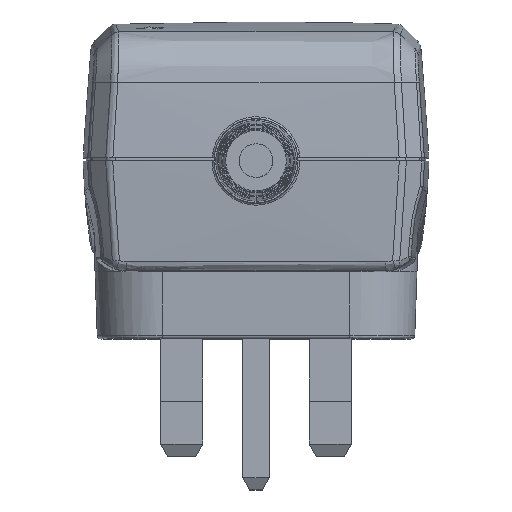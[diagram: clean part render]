
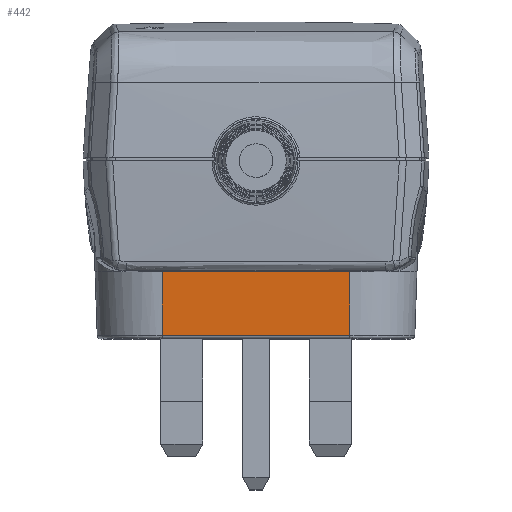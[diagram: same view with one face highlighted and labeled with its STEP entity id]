
A CAD part, top view. The second image highlights one B-rep face of the part: STEP entity #442.
In plain terms, the highlighted free-form (B-spline) face has degree [1, 1] with [2, 2] control points.
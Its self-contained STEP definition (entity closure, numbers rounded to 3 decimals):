
#442=ADVANCED_FACE('',(#898),#15477,.T.);
#898=FACE_OUTER_BOUND('',#1379,.T.);
#1379=EDGE_LOOP('',(#3306,#3307,#3308,#3309));
#3306=ORIENTED_EDGE('',*,*,#10899,.T.);
#3307=ORIENTED_EDGE('',*,*,#10900,.T.);
#3308=ORIENTED_EDGE('',*,*,#10897,.F.);
#3309=ORIENTED_EDGE('',*,*,#10714,.F.);
#5568=PCURVE('',#15422,#7891);
#5910=PCURVE('',#15162,#8233);
#5915=PCURVE('',#15477,#8238);
#5916=PCURVE('',#15477,#8239);
#5917=PCURVE('',#15477,#8240);
#5918=PCURVE('',#15477,#8241);
#5921=PCURVE('',#15163,#8244);
#6059=PCURVE('',#15166,#8382);
#7891=DEFINITIONAL_REPRESENTATION('',(#13172),#92378);
#8233=DEFINITIONAL_REPRESENTATION('',(#13668),#92378);
#8238=DEFINITIONAL_REPRESENTATION('',(#13674),#92378);
#8239=DEFINITIONAL_REPRESENTATION('',(#13676),#92378);
#8240=DEFINITIONAL_REPRESENTATION('',(#13677),#92378);
#8241=DEFINITIONAL_REPRESENTATION('',(#13678),#92378);
#8244=DEFINITIONAL_REPRESENTATION('',(#13682),#92378);
#8382=DEFINITIONAL_REPRESENTATION('',(#13870),#92378);
#9530=SURFACE_CURVE('',#13171,(#5568,#5918),.PCURVE_S1.);
#9713=SURFACE_CURVE('',#13667,(#5910,#5917),.PCURVE_S1.);
#9715=SURFACE_CURVE('',#13673,(#5915,#5921),.PCURVE_S1.);
#9716=SURFACE_CURVE('',#13675,(#5916,#6059),.PCURVE_S1.);
#10714=EDGE_CURVE('',#14865,#14864,#9530,.T.);
#10897=EDGE_CURVE('',#14864,#14981,#9713,.T.);
#10899=EDGE_CURVE('',#14865,#14982,#9715,.T.);
#10900=EDGE_CURVE('',#14982,#14981,#9716,.T.);
#13171=B_SPLINE_CURVE_WITH_KNOTS('',1,(#73730,#73731),.UNSPECIFIED.,.F.,
 .F.,(2,2),(-28.,0.),.UNSPECIFIED.);
#13172=B_SPLINE_CURVE_WITH_KNOTS('',1,(#73732,#73733),.UNSPECIFIED.,.F.,
 .F.,(2,2),(-28.,0.),.UNSPECIFIED.);
#13667=B_SPLINE_CURVE_WITH_KNOTS('',1,(#88741,#88742),.UNSPECIFIED.,.F.,
 .F.,(2,2),(-9.523,0.),.UNSPECIFIED.);
#13668=B_SPLINE_CURVE_WITH_KNOTS('',1,(#88743,#88744),.UNSPECIFIED.,.F.,
 .F.,(2,2),(-9.523,0.),.UNSPECIFIED.);
#13673=B_SPLINE_CURVE_WITH_KNOTS('',1,(#88756,#88757),.UNSPECIFIED.,.F.,
 .F.,(2,2),(-9.523,0.),.UNSPECIFIED.);
#13674=B_SPLINE_CURVE_WITH_KNOTS('',1,(#88758,#88759),.UNSPECIFIED.,.F.,
 .F.,(2,2),(-9.523,0.),.UNSPECIFIED.);
#13675=B_SPLINE_CURVE_WITH_KNOTS('',1,(#88760,#88761),.UNSPECIFIED.,.F.,
 .F.,(2,2),(0.,28.),.UNSPECIFIED.);
#13676=B_SPLINE_CURVE_WITH_KNOTS('',1,(#88762,#88763),.UNSPECIFIED.,.F.,
 .F.,(2,2),(0.,28.),.UNSPECIFIED.);
#13677=B_SPLINE_CURVE_WITH_KNOTS('',1,(#88764,#88765),.UNSPECIFIED.,.F.,
 .F.,(2,2),(-9.523,0.),.UNSPECIFIED.);
#13678=B_SPLINE_CURVE_WITH_KNOTS('',1,(#88766,#88767),.UNSPECIFIED.,.F.,
 .F.,(2,2),(-28.,0.),.UNSPECIFIED.);
#13682=B_SPLINE_CURVE_WITH_KNOTS('',1,(#88777,#88778),.UNSPECIFIED.,.F.,
 .F.,(2,2),(-9.523,0.),.UNSPECIFIED.);
#13870=B_SPLINE_CURVE_WITH_KNOTS('',1,(#89232,#89233),.UNSPECIFIED.,.F.,
 .F.,(2,2),(0.,28.),.UNSPECIFIED.);
#14864=VERTEX_POINT('',#73269);
#14865=VERTEX_POINT('',#73270);
#14981=VERTEX_POINT('',#73386);
#14982=VERTEX_POINT('',#73387);
#15162=(
BOUNDED_SURFACE()
B_SPLINE_SURFACE(2,1,((#72400,#72401),(#72402,#72403),(#72404,#72405),(#72406,
#72407),(#72408,#72409)),.UNSPECIFIED.,.F.,.F.,.F.)
B_SPLINE_SURFACE_WITH_KNOTS((3,2,3),(2,2),(3.063,3.927,
4.791),(-9.999,0.476),.UNSPECIFIED.)
GEOMETRIC_REPRESENTATION_ITEM()
RATIONAL_B_SPLINE_SURFACE(((1.,1.),(0.908,0.908),
(1.,1.),(0.908,0.908),(1.,1.)))
REPRESENTATION_ITEM('')
SURFACE()
);
#15163=(
BOUNDED_SURFACE()
B_SPLINE_SURFACE(2,1,((#72414,#72415),(#72416,#72417),(#72418,#72419),(#72420,
#72421),(#72422,#72423)),.UNSPECIFIED.,.F.,.F.,.F.)
B_SPLINE_SURFACE_WITH_KNOTS((3,2,3),(2,2),(4.634,5.498,
6.362),(-9.999,0.476),.UNSPECIFIED.)
GEOMETRIC_REPRESENTATION_ITEM()
RATIONAL_B_SPLINE_SURFACE(((1.,1.),(0.908,0.908),
(1.,1.),(0.908,0.908),(1.,1.)))
REPRESENTATION_ITEM('')
SURFACE()
);
#15166=(
BOUNDED_SURFACE()
B_SPLINE_SURFACE(2,1,((#72587,#72588),(#72589,#72590),(#72591,#72592),(#72593,
#72594),(#72595,#72596)),.UNSPECIFIED.,.F.,.F.,.F.)
B_SPLINE_SURFACE_WITH_KNOTS((3,2,3),(2,2),(4.636,5.48,
6.325),(-24.4,6.4),.UNSPECIFIED.)
GEOMETRIC_REPRESENTATION_ITEM()
RATIONAL_B_SPLINE_SURFACE(((1.,1.),(0.912,0.912),
(1.,1.),(0.912,0.912),(1.,1.)))
REPRESENTATION_ITEM('')
SURFACE()
);
#15422=B_SPLINE_SURFACE_WITH_KNOTS('',1,1,((#67624,#67625),(#67626,#67627)),
 .UNSPECIFIED.,.F.,.F.,.F.,(2,2),(2,2),(-22.015,22.015),
(-8.162,50.332),.UNSPECIFIED.);
#15477=B_SPLINE_SURFACE_WITH_KNOTS('',1,1,((#72410,#72411),(#72412,#72413)),
 .UNSPECIFIED.,.F.,.F.,.F.,(2,2),(2,2),(-0.476,9.999),
(-29.4,1.4),.UNSPECIFIED.);
#67624=CARTESIAN_POINT('',(-36.007,12.118,-8.162));
#67625=CARTESIAN_POINT('',(-36.007,12.118,50.332));
#67626=CARTESIAN_POINT('',(8.023,12.118,-8.162));
#67627=CARTESIAN_POINT('',(8.023,12.118,50.332));
#72400=CARTESIAN_POINT('',(-0.749,2.125,-3.879));
#72401=CARTESIAN_POINT('',(-0.778,12.594,-3.514));
#72402=CARTESIAN_POINT('',(3.686,2.125,-3.53));
#72403=CARTESIAN_POINT('',(3.825,12.594,-3.152));
#72404=CARTESIAN_POINT('',(6.832,2.125,-6.676));
#72405=CARTESIAN_POINT('',(7.091,12.594,-6.417));
#72406=CARTESIAN_POINT('',(9.978,2.125,-9.822));
#72407=CARTESIAN_POINT('',(10.356,12.594,-9.682));
#72408=CARTESIAN_POINT('',(9.629,2.125,-14.257));
#72409=CARTESIAN_POINT('',(9.994,12.594,-14.286));
#72410=CARTESIAN_POINT('',(-29.392,12.594,-3.483));
#72411=CARTESIAN_POINT('',(1.408,12.594,-3.483));
#72412=CARTESIAN_POINT('',(-29.392,2.125,-3.849));
#72413=CARTESIAN_POINT('',(1.408,2.125,-3.849));
#72414=CARTESIAN_POINT('',(-37.613,2.125,-14.257));
#72415=CARTESIAN_POINT('',(-37.978,12.594,-14.286));
#72416=CARTESIAN_POINT('',(-37.963,2.125,-9.822));
#72417=CARTESIAN_POINT('',(-38.34,12.594,-9.682));
#72418=CARTESIAN_POINT('',(-34.816,2.125,-6.676));
#72419=CARTESIAN_POINT('',(-35.075,12.594,-6.417));
#72420=CARTESIAN_POINT('',(-31.67,2.125,-3.53));
#72421=CARTESIAN_POINT('',(-31.81,12.594,-3.152));
#72422=CARTESIAN_POINT('',(-27.235,2.125,-3.879));
#72423=CARTESIAN_POINT('',(-27.206,12.594,-3.514));
#72587=CARTESIAN_POINT('',(1.408,2.119,-4.37));
#72588=CARTESIAN_POINT('',(-29.392,2.119,-4.37));
#72589=CARTESIAN_POINT('',(1.408,2.102,-4.146));
#72590=CARTESIAN_POINT('',(-29.392,2.102,-4.146));
#72591=CARTESIAN_POINT('',(1.408,2.258,-3.985));
#72592=CARTESIAN_POINT('',(-29.392,2.258,-3.985));
#72593=CARTESIAN_POINT('',(1.408,2.414,-3.823));
#72594=CARTESIAN_POINT('',(-29.392,2.414,-3.823));
#72595=CARTESIAN_POINT('',(1.408,2.639,-3.832));
#72596=CARTESIAN_POINT('',(-29.392,2.639,-3.832));
#73269=CARTESIAN_POINT('',(0.008,12.118,-3.5));
#73270=CARTESIAN_POINT('',(-27.992,12.118,-3.5));
#73386=CARTESIAN_POINT('',(0.008,2.6,-3.832));
#73387=CARTESIAN_POINT('',(-27.992,2.6,-3.832));
#73730=CARTESIAN_POINT('',(-27.992,12.118,-3.5));
#73731=CARTESIAN_POINT('',(0.008,12.118,-3.5));
#73732=CARTESIAN_POINT('',(-14.,-3.5));
#73733=CARTESIAN_POINT('',(14.,-3.5));
#88741=CARTESIAN_POINT('',(0.008,12.118,-3.5));
#88742=CARTESIAN_POINT('',(0.008,2.6,-3.832));
#88743=CARTESIAN_POINT('',(3.143,0.));
#88744=CARTESIAN_POINT('',(3.143,-9.523));
#88756=CARTESIAN_POINT('',(-27.992,12.118,-3.5));
#88757=CARTESIAN_POINT('',(-27.992,2.6,-3.832));
#88758=CARTESIAN_POINT('',(0.,-28.));
#88759=CARTESIAN_POINT('',(9.523,-28.));
#88760=CARTESIAN_POINT('',(-27.992,2.6,-3.832));
#88761=CARTESIAN_POINT('',(0.008,2.6,-3.832));
#88762=CARTESIAN_POINT('',(9.523,-28.));
#88763=CARTESIAN_POINT('',(9.523,0.));
#88764=CARTESIAN_POINT('',(0.,0.));
#88765=CARTESIAN_POINT('',(9.523,0.));
#88766=CARTESIAN_POINT('',(0.,-28.));
#88767=CARTESIAN_POINT('',(0.,0.));
#88777=CARTESIAN_POINT('',(6.281,0.));
#88778=CARTESIAN_POINT('',(6.281,-9.523));
#89232=CARTESIAN_POINT('',(6.247,5.));
#89233=CARTESIAN_POINT('',(6.247,-23.));
#92378=(
GEOMETRIC_REPRESENTATION_CONTEXT(2)
PARAMETRIC_REPRESENTATION_CONTEXT()
REPRESENTATION_CONTEXT('pspace','')
);
